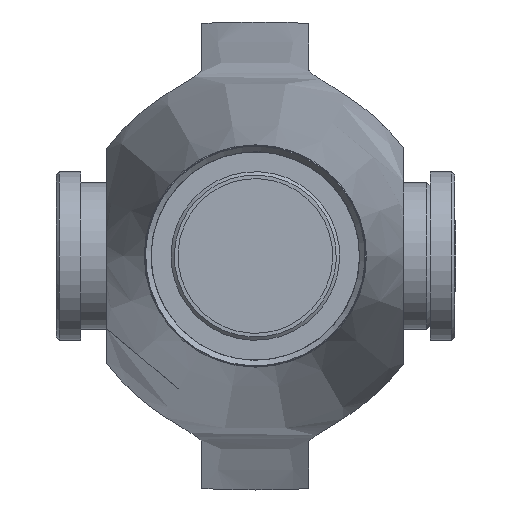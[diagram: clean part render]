
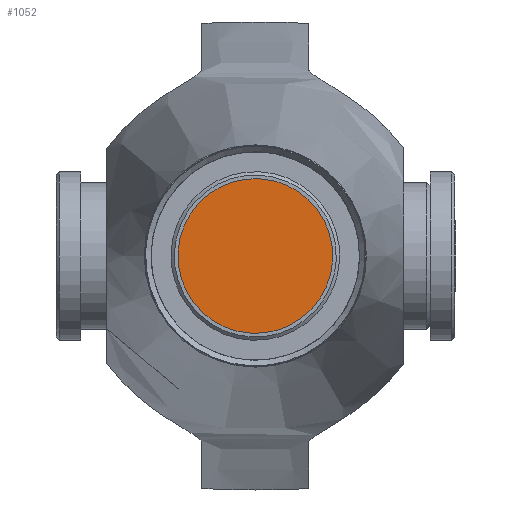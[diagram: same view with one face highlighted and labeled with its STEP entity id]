
A CAD part, left-side view. The second image highlights one B-rep face of the part: STEP entity #1052.
In plain terms, the highlighted planar face has unit normal (-1, 0, 0).
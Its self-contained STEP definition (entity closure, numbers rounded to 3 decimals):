
#83=PLANE('',#1149);
#114=FACE_OUTER_BOUND('',#177,.T.);
#177=EDGE_LOOP('',(#693,#694));
#354=CIRCLE('',#1147,25.25);
#355=CIRCLE('',#1148,25.25);
#421=VERTEX_POINT('',#1600);
#422=VERTEX_POINT('',#1602);
#530=EDGE_CURVE('',#422,#421,#354,.T.);
#531=EDGE_CURVE('',#421,#422,#355,.T.);
#693=ORIENTED_EDGE('',*,*,#530,.T.);
#694=ORIENTED_EDGE('',*,*,#531,.T.);
#1052=ADVANCED_FACE('',(#114),#83,.T.);
#1147=AXIS2_PLACEMENT_3D('',#1603,#1296,#1297);
#1148=AXIS2_PLACEMENT_3D('',#1604,#1298,#1299);
#1149=AXIS2_PLACEMENT_3D('',#1605,#1300,#1301);
#1296=DIRECTION('center_axis',(-1.,0.,0.));
#1297=DIRECTION('ref_axis',(0.,-0.455,-0.89));
#1298=DIRECTION('center_axis',(-1.,0.,0.));
#1299=DIRECTION('ref_axis',(0.,-0.455,-0.89));
#1300=DIRECTION('center_axis',(-1.,0.,0.));
#1301=DIRECTION('ref_axis',(0.,-0.455,-0.89));
#1600=CARTESIAN_POINT('',(-513.5,-22.48,11.497));
#1602=CARTESIAN_POINT('',(-513.5,22.48,-11.497));
#1603=CARTESIAN_POINT('Origin',(-513.5,0.,
0.));
#1604=CARTESIAN_POINT('Origin',(-513.5,0.,
0.));
#1605=CARTESIAN_POINT('Origin',(-513.5,0.,
0.));
